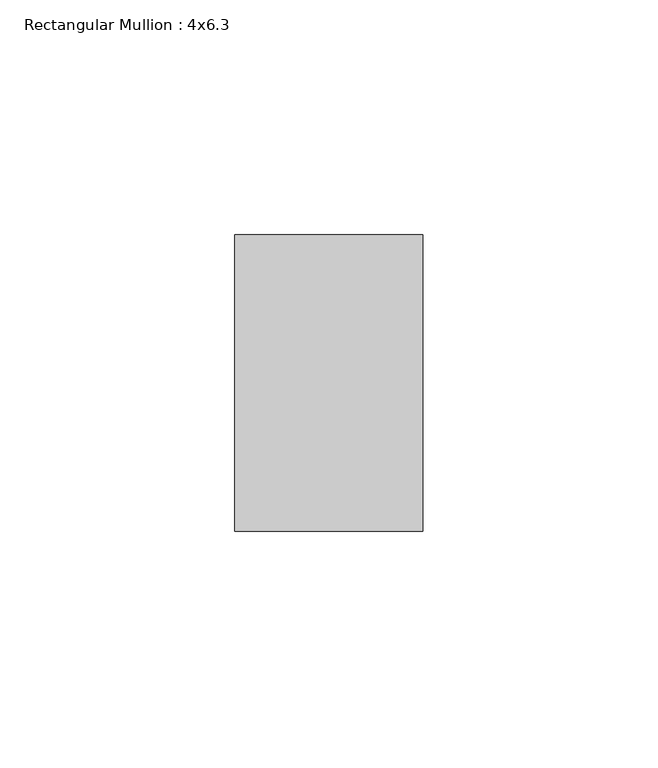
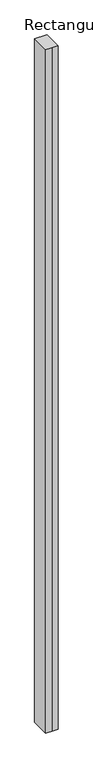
"""IFC4 building model written with IfcOpenShell, lengths in millimetres: member geometry, Rectangular Mullion : 4x6.3."""

from ifc_helpers import new_model, si_unit, frame, origin, place, context, project, spatial, polyline, outline, extrude, source, transform, mapped, element, save


def rectangular_mullion_4x6_3_e9055837(model_context):
    return source(origin(), model_context, "Body", "SweptSolid", [
        extrude(outline(polyline([(-20.0, 20.0), (-20.0, 83.0), (20.0, 83.0), (20.0, 20.0), (0.0, 20.0), (-20.0, 20.0)])), frame((0.0, 0.0, -2374.7478829), z_axis=(0.0, 0.0, 1.0), x_axis=(1.0, 0.0, 0.0)), (0.0, 0.0, 1.0), 2374.7478829),
    ])


if __name__ == "__main__":
    model = new_model("IFC4")
    model_context = context("Model", 3, world=origin())
    ifc_project = project(units=[si_unit("LENGTHUNIT", "METRE", prefix="MILLI")], contexts=[model_context])
    site = spatial("IfcSite", under=ifc_project)
    building = spatial("IfcBuilding", under=site)
    placement = place(None, origin())
    rectangular_mullion_4x6_3_shape = rectangular_mullion_4x6_3_e9055837(model_context)
    element("IfcMember", 1, ObjectType="Rectangular Mullion : 4x6.3", at=placement, inside=building, context=model_context, shape_type="MappedRepresentation", body=[
        mapped(rectangular_mullion_4x6_3_shape, transform((0.0, 0.0, 0.0), x_axis=(1.0, 0.0, 0.0), y_axis=(0.0, 1.0, 0.0), z_axis=(0.0, 0.0, 1.0))),
    ])
    save(model, "model.ifc")
